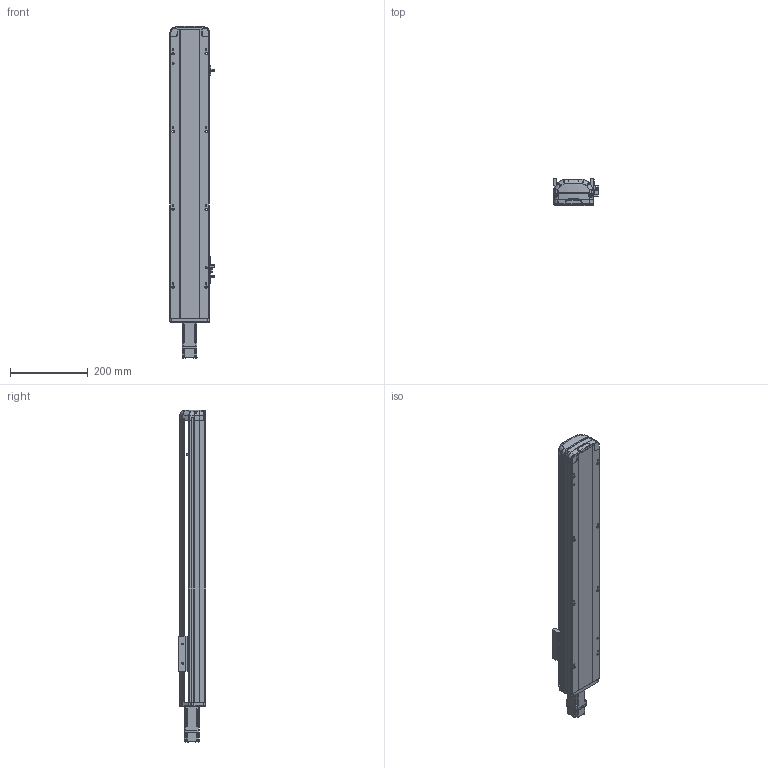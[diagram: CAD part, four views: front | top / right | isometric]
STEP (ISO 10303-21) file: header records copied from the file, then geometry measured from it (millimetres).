
FILE_DESCRIPTION (( 'STEP AP214' ), '1' );
FILE_NAME ('RTH10-XX-500-E-M10-C4.STEP', '2025-10-25T05:23:40', ( 'Microsoft' ), ( 'Microsoft' ), 'SwSTEP 2.0', 'SolidWorks 2018', '' );
FILE_SCHEMA (( 'AUTOMOTIVE_DESIGN' ));
Length unit declared in the file: millimetre
Products named in the file (9): RTH10-XX-500-E-M10-C4; N_RTH12-GY-004-賑釱^RTH10-XX-XX-E-M10-C4; N_OMRON EE-SX672 传感器^RTH10-XX-XX-E-M10-C4; N_RTH12-E-007P-奻裔^RTH10-XX-XX-E-M10-C4; N_P10^RTH10-XX-XX-E-M10-C4; N_RTH12-GY-001P^RTH10-XX-XX-E-M10-C4; N_RTH13-L-012覜茼え俋离^RTH10-XX-XX-E-M10-C4; N_RTH12-E-011P-臏倰第菁釱^RTH10-XX-XX-E-M10-C4; N_RTH12-E-008-M10萇儂啣^RTH10-XX-XX-E-M10-C4
Assembly tree (10 placements, depth 2):
  RTH10-XX-500-E-M10-C4
    N_RTH12-E-011P-臏倰第菁釱^RTH10-XX-XX-E-M10-C4
    N_RTH13-L-012覜茼え俋离^RTH10-XX-XX-E-M10-C4
    N_OMRON EE-SX672 传感器^RTH10-XX-XX-E-M10-C4  x3
    N_P10^RTH10-XX-XX-E-M10-C4
    N_RTH12-E-007P-奻裔^RTH10-XX-XX-E-M10-C4
    N_RTH12-E-008-M10萇儂啣^RTH10-XX-XX-E-M10-C4
    N_RTH12-GY-001P^RTH10-XX-XX-E-M10-C4
    N_RTH12-GY-004-賑釱^RTH10-XX-XX-E-M10-C4
Bounding box: 116.5 x 70 x 853.17 mm (x, y, z)
Volume: 3091673.8 mm3; surface area: 500946.9 mm2
Topology: 9 solids, 11 shells, 1932 faces, 5365 edges, 3518 vertices
Faces by surface type: plane 968, bspline 472, cylinder 457, cone 33, torus 2
Entity records: 57817 total; most frequent: CARTESIAN_POINT 23034, ORIENTED_EDGE 7810, DIRECTION 5989, EDGE_CURVE 3911, VERTEX_POINT 2562, LINE 2075, VECTOR 2075, AXIS2_PLACEMENT_3D 1957
